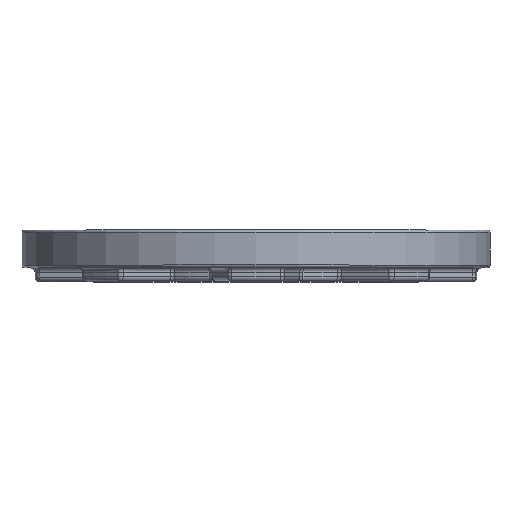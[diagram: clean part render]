
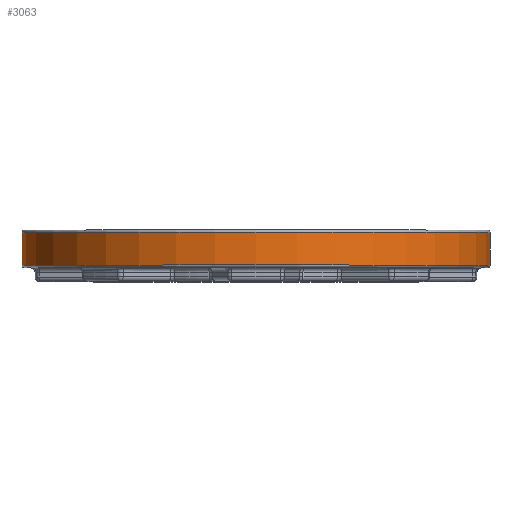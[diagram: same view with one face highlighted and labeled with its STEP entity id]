
A CAD part, top view. The second image highlights one B-rep face of the part: STEP entity #3063.
In plain terms, the highlighted cylindrical face has radius 100 mm (diameter 200 mm), a full revolution.
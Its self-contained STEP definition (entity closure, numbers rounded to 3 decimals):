
#254=CIRCLE('',#3420,100.);
#255=CIRCLE('',#3421,100.);
#481=CYLINDRICAL_SURFACE('',#3419,100.);
#820=ORIENTED_EDGE('',*,*,#1696,.T.);
#821=ORIENTED_EDGE('',*,*,#1697,.T.);
#1696=EDGE_CURVE('',#2152,#2152,#254,.F.);
#1697=EDGE_CURVE('',#2153,#2153,#255,.T.);
#2152=VERTEX_POINT('',#5553);
#2153=VERTEX_POINT('',#5555);
#2542=EDGE_LOOP('',(#820));
#2543=EDGE_LOOP('',(#821));
#2816=FACE_BOUND('',#2542,.T.);
#2817=FACE_BOUND('',#2543,.T.);
#3063=ADVANCED_FACE('',(#2816,#2817),#481,.T.);
#3419=AXIS2_PLACEMENT_3D('',#5551,#4258,#4259);
#3420=AXIS2_PLACEMENT_3D('',#5552,#4260,#4261);
#3421=AXIS2_PLACEMENT_3D('',#5554,#4262,#4263);
#4258=DIRECTION('',(0.,-1.,0.));
#4259=DIRECTION('',(0.,0.,-1.));
#4260=DIRECTION('',(0.,1.,0.));
#4261=DIRECTION('',(0.,0.,1.));
#4262=DIRECTION('',(0.,1.,0.));
#4263=DIRECTION('',(0.,0.,1.));
#5551=CARTESIAN_POINT('',(0.,22.,0.));
#5552=CARTESIAN_POINT('',(0.,21.,0.));
#5553=CARTESIAN_POINT('',(0.,21.,100.));
#5554=CARTESIAN_POINT('',(0.,7.,0.));
#5555=CARTESIAN_POINT('',(0.,7.,100.));
